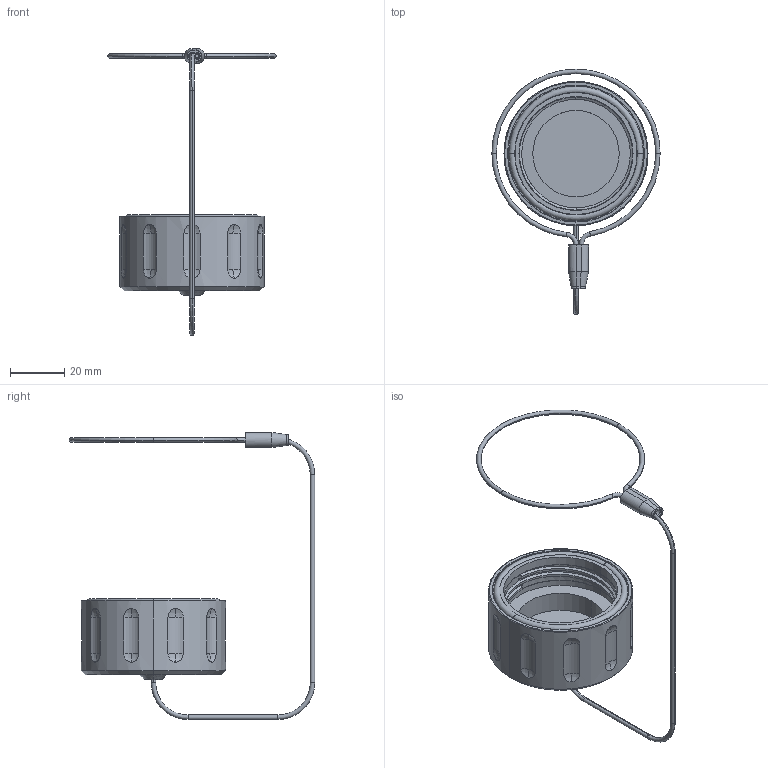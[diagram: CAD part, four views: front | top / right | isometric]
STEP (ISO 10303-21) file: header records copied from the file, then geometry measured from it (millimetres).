
FILE_DESCRIPTION (( 'STEP AP214' ), '1' );
FILE_NAME ('QFOCA-DCFX-1.62.STEP', '2025-06-09T20:43:08', ( '' ), ( '' ), 'SwSTEP 2.0', 'SolidWorks 2024', '' );
FILE_SCHEMA (( 'AUTOMOTIVE_DESIGN' ));
Length unit declared in the file: inch
Products named in the file (1): QFOCA-DCFX-1.62
Bounding box: 61.85 x 90.17 x 105.43 mm (x, y, z)
Volume: 37611.4 mm3; surface area: 16426.8 mm2
Topology: 4 solids, 5 shells, 198 faces, 455 edges, 284 vertices
Faces by surface type: cylinder 62, sphere 40, plane 36, torus 32, cone 20, bspline 8
Entity records: 7078 total; most frequent: CARTESIAN_POINT 2612, DIRECTION 940, ORIENTED_EDGE 910, EDGE_CURVE 455, AXIS2_PLACEMENT_3D 406, VERTEX_POINT 284, EDGE_LOOP 223, CIRCLE 215
